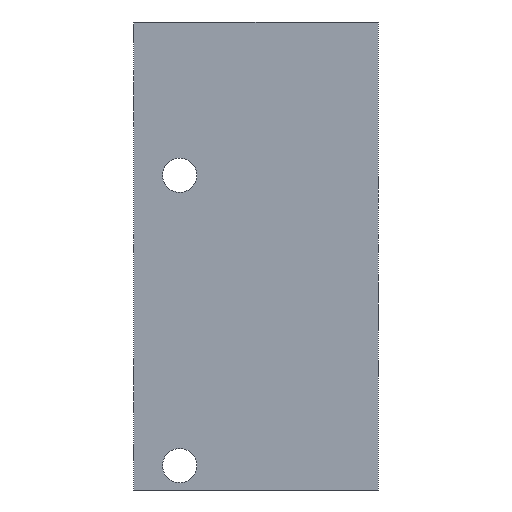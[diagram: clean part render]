
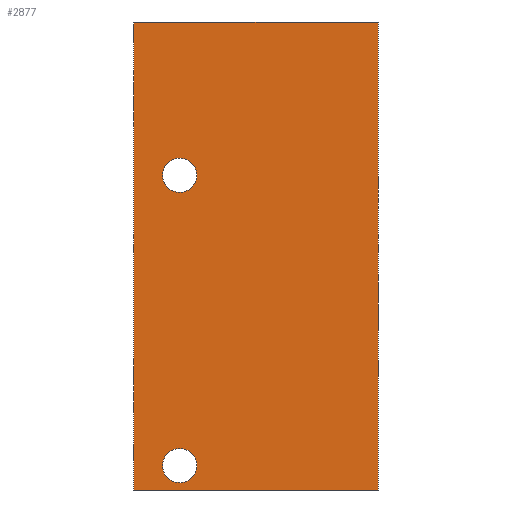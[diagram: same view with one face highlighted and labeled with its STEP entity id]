
A CAD part, front view. The second image highlights one B-rep face of the part: STEP entity #2877.
In plain terms, the highlighted planar face has unit normal (0, -1, 0).
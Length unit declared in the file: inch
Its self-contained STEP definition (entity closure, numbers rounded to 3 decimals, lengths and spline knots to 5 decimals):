
#107=CIRCLE('',#3034,0.14);
#109=CIRCLE('',#3037,0.14);
#248=FACE_BOUND('',#738,.T.);
#249=FACE_BOUND('',#739,.T.);
#250=FACE_BOUND('',#740,.T.);
#738=EDGE_LOOP('',(#2410));
#739=EDGE_LOOP('',(#2411));
#740=EDGE_LOOP('',(#2412,#2413,#2414,#2415));
#965=LINE('',#4742,#1165);
#1010=LINE('',#5094,#1210);
#1013=LINE('',#5108,#1213);
#1014=LINE('',#5151,#1214);
#1165=VECTOR('',#3417,3.828);
#1210=VECTOR('',#3612,2.);
#1213=VECTOR('',#3627,2.);
#1214=VECTOR('',#3686,3.828);
#1348=VERTEX_POINT('',#4735);
#1351=VERTEX_POINT('',#4740);
#1405=VERTEX_POINT('',#5000);
#1407=VERTEX_POINT('',#5005);
#1416=VERTEX_POINT('',#5092);
#1421=VERTEX_POINT('',#5105);
#1672=EDGE_CURVE('',#1351,#1348,#965,.T.);
#1740=EDGE_CURVE('',#1405,#1405,#107,.T.);
#1742=EDGE_CURVE('',#1407,#1407,#109,.T.);
#1754=EDGE_CURVE('',#1416,#1351,#1010,.T.);
#1760=EDGE_CURVE('',#1421,#1348,#1013,.T.);
#1774=EDGE_CURVE('',#1416,#1421,#1014,.T.);
#2410=ORIENTED_EDGE('',*,*,#1740,.T.);
#2411=ORIENTED_EDGE('',*,*,#1742,.T.);
#2412=ORIENTED_EDGE('',*,*,#1760,.T.);
#2413=ORIENTED_EDGE('',*,*,#1672,.F.);
#2414=ORIENTED_EDGE('',*,*,#1754,.F.);
#2415=ORIENTED_EDGE('',*,*,#1774,.T.);
#2579=PLANE('',#3084);
#2877=ADVANCED_FACE('',(#248,#249,#250),#2579,.T.);
#3034=AXIS2_PLACEMENT_3D('',#5001,#3580,#3581);
#3037=AXIS2_PLACEMENT_3D('',#5006,#3586,#3587);
#3084=AXIS2_PLACEMENT_3D('',#5153,#3688,#3689);
#3417=DIRECTION('',(0.,0.,1.));
#3580=DIRECTION('center_axis',(0.,1.,0.));
#3581=DIRECTION('ref_axis',(1.,0.,0.));
#3586=DIRECTION('center_axis',(0.,1.,0.));
#3587=DIRECTION('ref_axis',(1.,0.,0.));
#3612=DIRECTION('',(-1.,0.,0.));
#3627=DIRECTION('',(-1.,0.,0.));
#3686=DIRECTION('',(0.,0.,1.));
#3688=DIRECTION('center_axis',(0.,-1.,0.));
#3689=DIRECTION('ref_axis',(0.,0.,-1.));
#4735=CARTESIAN_POINT('',(-1.21875,-0.75,3.828));
#4740=CARTESIAN_POINT('',(-1.21875,-0.75,0.));
#4742=CARTESIAN_POINT('',(-1.21875,-0.75,0.));
#5000=CARTESIAN_POINT('',(-0.70375,-0.75,2.575));
#5001=CARTESIAN_POINT('Origin',(-0.84375,-0.75,2.575));
#5005=CARTESIAN_POINT('',(-0.70375,-0.75,0.2));
#5006=CARTESIAN_POINT('Origin',(-0.84375,-0.75,0.2));
#5092=CARTESIAN_POINT('',(0.78125,-0.75,0.));
#5094=CARTESIAN_POINT('',(0.78125,-0.75,0.));
#5105=CARTESIAN_POINT('',(0.78125,-0.75,3.828));
#5108=CARTESIAN_POINT('',(0.78125,-0.75,3.828));
#5151=CARTESIAN_POINT('',(0.78125,-0.75,0.));
#5153=CARTESIAN_POINT('Origin',(0.78125,-0.75,0.));
